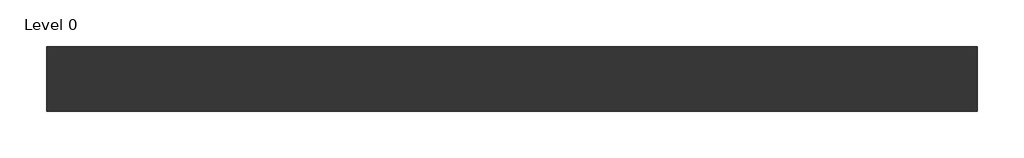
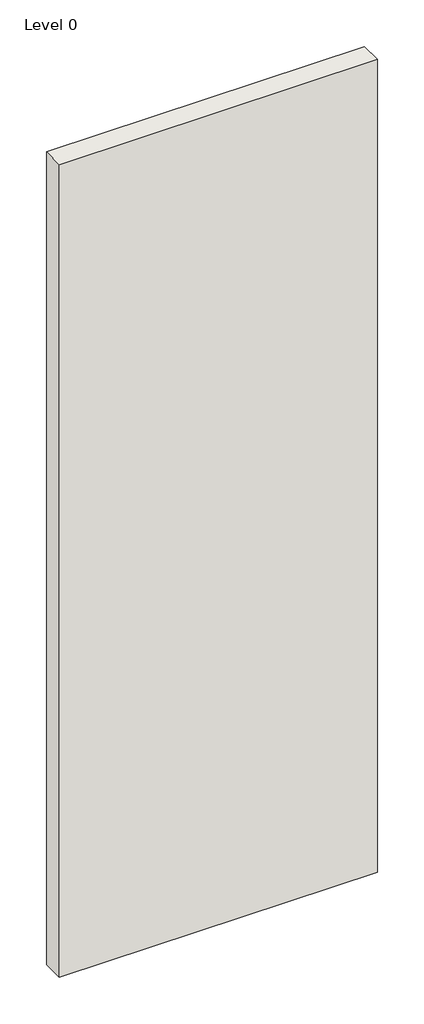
# One storey: 1 wall.
"""IFC4 building model written with IfcOpenShell, lengths in millimetres."""

import ifcopenshell
import ifcopenshell.guid

model = None  # the IFC model being written
_history = None  # IfcOwnerHistory: only IFC2X3 demands one
_inside = {}  # id of a spatial element -> (the spatial element, [elements in it])
_under = {}  # id of a project, library or spatial element -> (it, [spatial elements below it])
_declared = {}  # id of a project -> (the project, [libraries it declares])
_typed = {}  # id of a type object -> (the type object, [elements of that type])
_made_of = {}  # id of a material, layer set ... -> (it, [elements and type objects made of it])


def new_model(schema):
    """Start an empty IFC model of exactly this schema.

    Asked for "IFC4X3", IfcOpenShell would pick the latest addendum, in which some entities
    have other attributes; the version numbers below select the first issue.
    IFC2X3 requires an IfcOwnerHistory on every rooted entity: one is made here for all.
    """
    global model, _history
    if schema == "IFC4X3":
        model = ifcopenshell.file(schema_version=(4, 3, 0, 0))
    else:
        model = ifcopenshell.file(schema=schema)
    _inside.clear()
    _under.clear()
    _declared.clear()
    _typed.clear()
    _made_of.clear()
    _history = None
    if model.schema == "IFC2X3":
        org = make("IfcOrganization", Name="unknown")
        user = make(
            "IfcPersonAndOrganization",
            ThePerson=make("IfcPerson", FamilyName="unknown"),
            TheOrganization=org,
        )
        app = make(
            "IfcApplication",
            ApplicationDeveloper=org,
            Version="unknown",
            ApplicationFullName="unknown",
            ApplicationIdentifier="unknown",
        )
        _history = make(
            "IfcOwnerHistory",
            OwningUser=user,
            OwningApplication=app,
            ChangeAction="ADDED",
            CreationDate=0,
        )
    return model


def make(cls, **values):
    """One entity of the class cls with the attributes given. An attribute that is None is left unset."""
    return model.create_entity(
        cls, **{name: value for name, value in values.items() if value is not None}
    )


def rooted(cls, **values):
    """An entity with a GlobalId (a new one), such as an element, a storey or a relation."""
    return make(cls, GlobalId=ifcopenshell.guid.new(), OwnerHistory=_history, **values)


def si_unit(unit_type, name, prefix=None):
    """IfcSIUnit, for example si_unit("LENGTHUNIT", "METRE", prefix="MILLI")."""
    return make("IfcSIUnit", UnitType=unit_type, Prefix=prefix, Name=name)


def assignment(units):
    """IfcUnitAssignment: the units of a project."""
    return None if units is None else make("IfcUnitAssignment", Units=units)


def point(xyz):
    """IfcCartesianPoint."""
    return None if xyz is None else make("IfcCartesianPoint", Coordinates=xyz)


def direction(xyz):
    """IfcDirection."""
    return None if xyz is None else make("IfcDirection", DirectionRatios=xyz)


def frame(location, z_axis=None, x_axis=None):
    """IfcAxis2Placement3D, a coordinate frame: its origin and axes. An axis left out is left unset."""
    return make(
        "IfcAxis2Placement3D",
        Location=point(location),
        Axis=direction(z_axis),
        RefDirection=direction(x_axis),
    )


def origin():
    """The frame at (0, 0, 0) with its axes left unset."""
    return frame((0.0, 0.0, 0.0))


def origin_with_axes():
    """The frame at (0, 0, 0) with the z axis (0, 0, 1) and the x axis (1, 0, 0) written out."""
    return frame((0.0, 0.0, 0.0), z_axis=(0.0, 0.0, 1.0), x_axis=(1.0, 0.0, 0.0))


def place(relative_to, where):
    """IfcLocalPlacement: puts the frame where relative to a parent placement (None: the world)."""
    return make(
        "IfcLocalPlacement", PlacementRelTo=relative_to, RelativePlacement=where
    )


def context(
    kind, dimensions, precision=None, world=None, true_north=None, identifier=None
):
    """IfcGeometricRepresentationContext, for example the 3D "Model" context."""
    return make(
        "IfcGeometricRepresentationContext",
        ContextIdentifier=identifier,
        ContextType=kind,
        CoordinateSpaceDimension=dimensions,
        Precision=precision,
        WorldCoordinateSystem=world,
        TrueNorth=true_north,
    )


def project(units=None, contexts=None):
    """IfcProject with its units and contexts."""
    return rooted(
        "IfcProject",
        Name="project",
        RepresentationContexts=contexts,
        UnitsInContext=assignment(units),
    )


def spatial(cls, under=None, at=None, **own):
    """A site, building, storey or space (cls), placed at a placement, below another one or the project."""
    s = rooted(cls, ObjectPlacement=at, **own)
    if under is not None:
        _under.setdefault(under.id(), (under, []))[1].append(s)
    return s


def polyline(points):
    """IfcPolyline through the points."""
    return make("IfcPolyline", Points=[point(p) for p in points])


def outline(outer, holes=None, kind="AREA"):
    """IfcArbitraryClosedProfileDef: a profile drawn as a closed curve; with holes, ...WithVoids."""
    if holes is None:
        return make("IfcArbitraryClosedProfileDef", ProfileType=kind, OuterCurve=outer)
    return make(
        "IfcArbitraryProfileDefWithVoids",
        ProfileType=kind,
        OuterCurve=outer,
        InnerCurves=holes,
    )


def extrude(swept, where, along, depth):
    """IfcExtrudedAreaSolid: the profile swept, set in the frame where, extruded along a direction by depth."""
    return make(
        "IfcExtrudedAreaSolid",
        SweptArea=swept,
        Position=where,
        ExtrudedDirection=direction(along),
        Depth=depth,
    )


def shape(context_of_items, identifier, shape_type, items):
    """IfcShapeRepresentation: the items that make up one representation, for example the "Body"."""
    return make(
        "IfcShapeRepresentation",
        ContextOfItems=context_of_items,
        RepresentationIdentifier=identifier,
        RepresentationType=shape_type,
        Items=items,
    )


def made_of(thing, what):
    """Note that an element or type object is made of a material, layer set ...; save() writes the relation."""
    if what is not None:
        _made_of.setdefault(what.id(), (what, []))[1].append(thing)
    return thing


def element(
    cls,
    number,
    at=None,
    inside=None,
    cuts=None,
    type_object=None,
    material=None,
    context=None,
    identifier="Body",
    shape_type=None,
    held_by="IfcProductDefinitionShape",
    body=None,
    shapes=None,
    **own,
):
    """One element of the class cls, such as IfcWall. Its Tag is "e" and its number.

    at: its placement. inside: the storey or other place that contains it. cuts: it is an
    opening in that element (IfcRelVoidsElement). A single representation is given by context,
    identifier, shape_type and body (its items); several are given by shapes. held_by: the class
    of the entity that holds the representations. save() writes the other relations.
    """
    e = rooted(cls, Tag="e%d" % number, ObjectPlacement=at, **own)
    if body is not None:
        shapes = [shape(context, identifier, shape_type, body)]
    if shapes is not None:
        e.Representation = make(held_by, Representations=shapes)
    if inside is not None:
        _inside.setdefault(inside.id(), (inside, []))[1].append(e)
    if cuts is not None:
        rooted(
            "IfcRelVoidsElement", RelatingBuildingElement=cuts, RelatedOpeningElement=e
        )
    if type_object is not None:
        _typed.setdefault(type_object.id(), (type_object, []))[1].append(e)
    return made_of(e, material)


def aggregate(whole, parts):
    """IfcRelAggregates: a whole, such as a stair, and the parts it consists of."""
    return rooted("IfcRelAggregates", RelatingObject=whole, RelatedObjects=parts)


def save(model, path):
    """Write the relations noted so far, then the file.

    IfcRelAggregates (storeys below a building ...), IfcRelContainedInSpatialStructure (elements
    in a storey), IfcRelDefinesByType, IfcRelAssociatesMaterial and IfcRelDeclares: one each for
    every whole, place, type object, material and project.
    """
    for whole, parts in _under.values():
        aggregate(whole, parts)
    for where, things in _inside.values():
        rooted(
            "IfcRelContainedInSpatialStructure",
            RelatedElements=things,
            RelatingStructure=where,
        )
    for kind, things in _typed.values():
        rooted("IfcRelDefinesByType", RelatedObjects=things, RelatingType=kind)
    for what, things in _made_of.values():
        rooted("IfcRelAssociatesMaterial", RelatedObjects=things, RelatingMaterial=what)
    for by, libraries in _declared.values():
        rooted("IfcRelDeclares", RelatingContext=by, RelatedDefinitions=libraries)
    model.write(path)


model = new_model("IFC4")

# Units and contexts
model_context = context("Model", 3, world=origin())
ifc_project = project(units=[si_unit("LENGTHUNIT", "METRE", prefix="MILLI")], contexts=[model_context])

# Site, building, storey
site = spatial("IfcSite", under=ifc_project)
building = spatial("IfcBuilding", under=site)
storey = spatial("IfcBuildingStorey", under=building, Name="Level 0", Elevation=0.0)

# Wall
placement = place(None, origin())
element("IfcWall", 1, ObjectType="A206A243 - GypWall Classic", at=placement, inside=storey, context=model_context, shape_type="SweptSolid", body=[
    extrude(outline(polyline([(2116.0807354, 489.7205641), (-883.9192646, 489.7205641), (-883.9192646, 697.7205641), (2116.0807354, 697.7205641), (2116.0807354, 489.7205641)])), origin_with_axes(), (0.0, 0.0, 1.0), 8100.0),
])

save(model, "model.ifc")
